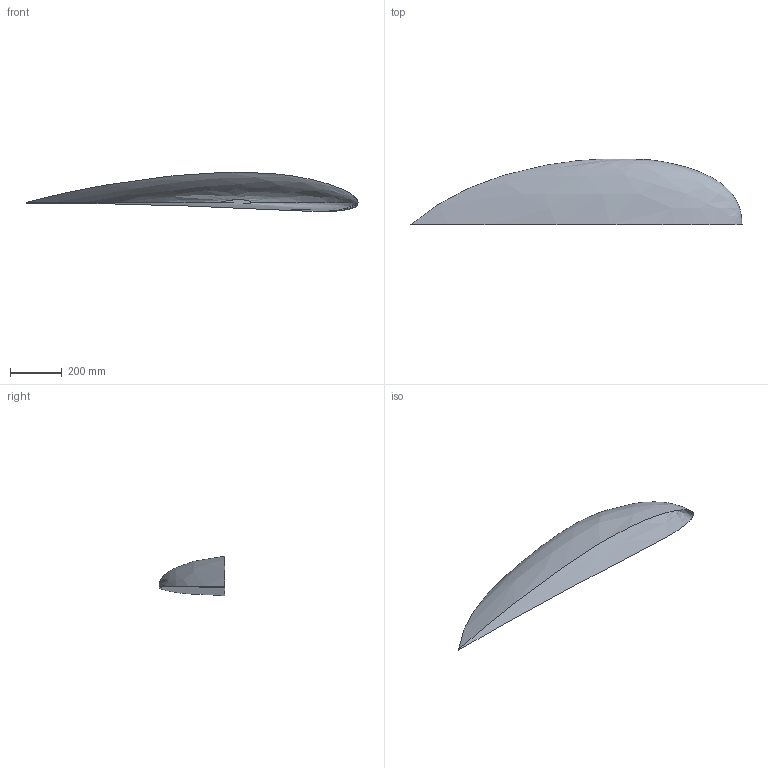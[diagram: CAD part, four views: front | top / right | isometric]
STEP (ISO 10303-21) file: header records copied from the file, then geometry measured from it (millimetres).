
FILE_DESCRIPTION(('CATIA V5 STEP Exchange'),'2;1');
FILE_NAME('E:\TEMP\TIP.stp','2013-03-20T20:12:02+00:00',('none'),('none'),'CATIA Version 5 Release 21 SP 6 (IN-10)','CATIA V5 STEP AP203','none');
FILE_SCHEMA(('CONFIG_CONTROL_DESIGN'));
Length unit declared in the file: millimetre
Products named in the file (1): Part1
Bounding box: 1289.1 x 256.12 x 153.56 mm (x, y, z)
Surface area: 540408.6 mm2 (no closed solid volume)
Topology: 0 solids, 2 shells, 3 faces, 10 edges, 9 vertices
Faces by surface type: bspline 2, plane 1
Entity records: 3728 total; most frequent: CARTESIAN_POINT 3621, ORIENTED_EDGE 11, EDGE_CURVE 10, B_SPLINE_CURVE_WITH_KNOTS 9, VERTEX_POINT 9, CC_DESIGN_PERSON_AND_ORGANIZATION_ASSIGNMENT 4, PERSON_AND_ORGANIZATION_ROLE 4, DIRECTION 3
